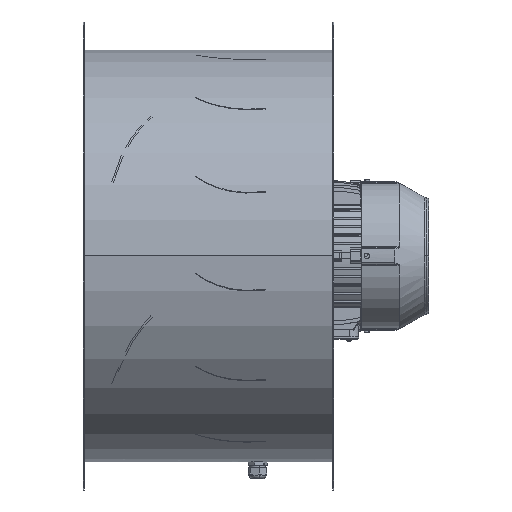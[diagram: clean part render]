
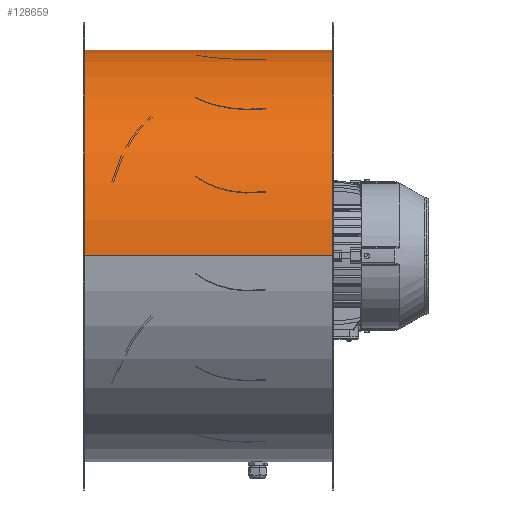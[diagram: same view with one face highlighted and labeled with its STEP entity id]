
A CAD part, top view. The second image highlights one B-rep face of the part: STEP entity #128659.
In plain terms, the highlighted cylindrical face has radius 356.5 mm (diameter 713 mm), a partial arc.
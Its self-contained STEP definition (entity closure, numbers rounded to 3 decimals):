
#6984 = EDGE_CURVE ( 'NONE', #455367, #63186, #37297, .T. ) ;
#10039 = CARTESIAN_POINT ( 'NONE',  ( 257.5, 3., -356.487 ) ) ;
#10895 = AXIS2_PLACEMENT_3D ( 'NONE', #292490, #51342, #333012 ) ;
#11672 = CARTESIAN_POINT ( 'NONE',  ( 257.5, 0., 0. ) ) ;
#18100 = DIRECTION ( 'NONE',  ( 1., 0., 0. ) ) ;
#29541 = AXIS2_PLACEMENT_3D ( 'NONE', #515457, #151040, #353441 ) ;
#31818 = CARTESIAN_POINT ( 'NONE',  ( 258.25, 0., 0. ) ) ;
#37297 = LINE ( 'NONE', #300777, #238855 ) ;
#51342 = DIRECTION ( 'NONE',  ( 1., 0., 0. ) ) ;
#52178 = DIRECTION ( 'NONE',  ( 0., 0., 1. ) ) ;
#60853 = ORIENTED_EDGE ( 'NONE', *, *, #6984, .F. ) ;
#62520 = AXIS2_PLACEMENT_3D ( 'NONE', #31818, #313501, #72303 ) ;
#63186 = VERTEX_POINT ( 'NONE', #174180 ) ;
#72303 = DIRECTION ( 'NONE',  ( 0., 0., 1. ) ) ;
#76504 = CARTESIAN_POINT ( 'NONE',  ( 257.5, 3.013, -356.487 ) ) ;
#88649 = EDGE_CURVE ( 'NONE', #63186, #91231, #420957, .T. ) ;
#88881 = EDGE_CURVE ( 'NONE', #238644, #114547, #206715, .T. ) ;
#91231 = VERTEX_POINT ( 'NONE', #391218 ) ;
#104111 = EDGE_CURVE ( 'NONE', #307993, #225124, #501907, .T. ) ;
#106348 = DIRECTION ( 'NONE',  ( 1., 0., 0. ) ) ;
#106703 = AXIS2_PLACEMENT_3D ( 'NONE', #192774, #474466, #233255 ) ;
#110921 = VECTOR ( 'NONE', #475781, 1000. ) ;
#111080 = CARTESIAN_POINT ( 'NONE',  ( 258.25, 0., -356.5 ) ) ;
#114420 = CARTESIAN_POINT ( 'NONE',  ( -169.5, 3.013, -356.487 ) ) ;
#114547 = VERTEX_POINT ( 'NONE', #370833 ) ;
#116383 = EDGE_CURVE ( 'NONE', #455367, #238644, #166411, .T. ) ;
#124747 = ORIENTED_EDGE ( 'NONE', *, *, #271777, .F. ) ;
#128659 = ADVANCED_FACE ( 'NONE', ( #190256 ), #284641, .T. ) ;
#142081 = ORIENTED_EDGE ( 'NONE', *, *, #88881, .T. ) ;
#151040 = DIRECTION ( 'NONE',  ( 1., 0., 0. ) ) ;
#153605 = ORIENTED_EDGE ( 'NONE', *, *, #435292, .F. ) ;
#156556 = CARTESIAN_POINT ( 'NONE',  ( 257.5, 0., -356.5 ) ) ;
#157363 = ORIENTED_EDGE ( 'NONE', *, *, #116383, .T. ) ;
#166411 = CIRCLE ( 'NONE', #106703, 356.5 ) ;
#169010 = AXIS2_PLACEMENT_3D ( 'NONE', #259269, #18100, #299783 ) ;
#174180 = CARTESIAN_POINT ( 'NONE',  ( -169.5, 0., -356.5 ) ) ;
#179568 = EDGE_CURVE ( 'NONE', #225124, #193785, #352256, .T. ) ;
#190256 = FACE_OUTER_BOUND ( 'NONE', #394505, .T. ) ;
#192774 = CARTESIAN_POINT ( 'NONE',  ( -170.25, 0., 0. ) ) ;
#193785 = VERTEX_POINT ( 'NONE', #76504 ) ;
#206715 = LINE ( 'NONE', #370363, #301211 ) ;
#208423 = DIRECTION ( 'NONE',  ( 1., 0., 0. ) ) ;
#225124 = VERTEX_POINT ( 'NONE', #10039 ) ;
#233255 = DIRECTION ( 'NONE',  ( 0., 0., 1. ) ) ;
#238644 = VERTEX_POINT ( 'NONE', #310228 ) ;
#238855 = VECTOR ( 'NONE', #381749, 1000. ) ;
#248853 = DIRECTION ( 'NONE',  ( 1., 0., 0. ) ) ;
#259269 = CARTESIAN_POINT ( 'NONE',  ( -169.5, 0., 0. ) ) ;
#261101 = CIRCLE ( 'NONE', #62520, 356.5 ) ;
#262093 = ORIENTED_EDGE ( 'NONE', *, *, #352349, .F. ) ;
#271777 = EDGE_CURVE ( 'NONE', #307993, #352341, #432269, .T. ) ;
#280744 = AXIS2_PLACEMENT_3D ( 'NONE', #449653, #208423, #490125 ) ;
#284641 = CYLINDRICAL_SURFACE ( 'NONE', #29541, 356.5 ) ;
#292490 = CARTESIAN_POINT ( 'NONE',  ( 257.5, 0., 0. ) ) ;
#293337 = DIRECTION ( 'NONE',  ( 1., 0., 0. ) ) ;
#299783 = DIRECTION ( 'NONE',  ( 0., 0., 1. ) ) ;
#300777 = CARTESIAN_POINT ( 'NONE',  ( -169.5, 0., -356.5 ) ) ;
#301211 = VECTOR ( 'NONE', #248853, 1000. ) ;
#306203 = VECTOR ( 'NONE', #106348, 1000. ) ;
#307993 = VERTEX_POINT ( 'NONE', #156556 ) ;
#310228 = CARTESIAN_POINT ( 'NONE',  ( -170.25, 0., 356.5 ) ) ;
#313501 = DIRECTION ( 'NONE',  ( 1., 0., 0. ) ) ;
#315256 = CIRCLE ( 'NONE', #169010, 356.5 ) ;
#318767 = AXIS2_PLACEMENT_3D ( 'NONE', #11672, #293337, #52178 ) ;
#318838 = LINE ( 'NONE', #467302, #306203 ) ;
#333012 = DIRECTION ( 'NONE',  ( 0., 0., 1. ) ) ;
#352256 = CIRCLE ( 'NONE', #10895, 356.5 ) ;
#352341 = VERTEX_POINT ( 'NONE', #111080 ) ;
#352349 = EDGE_CURVE ( 'NONE', #352341, #114547, #261101, .T. ) ;
#353441 = DIRECTION ( 'NONE',  ( 0., 0., 1. ) ) ;
#361236 = VERTEX_POINT ( 'NONE', #114420 ) ;
#370363 = CARTESIAN_POINT ( 'NONE',  ( -169.5, 0., 356.5 ) ) ;
#370833 = CARTESIAN_POINT ( 'NONE',  ( 258.25, 0., 356.5 ) ) ;
#371550 = ORIENTED_EDGE ( 'NONE', *, *, #88649, .F. ) ;
#381749 = DIRECTION ( 'NONE',  ( 1., 0., 0. ) ) ;
#391218 = CARTESIAN_POINT ( 'NONE',  ( -169.5, 3., -356.487 ) ) ;
#394505 = EDGE_LOOP ( 'NONE', ( #60853, #157363, #142081, #262093, #124747, #500142, #482049, #153605, #496926, #371550 ) ) ;
#401047 = EDGE_CURVE ( 'NONE', #91231, #361236, #315256, .T. ) ;
#420957 = CIRCLE ( 'NONE', #280744, 356.5 ) ;
#432269 = LINE ( 'NONE', #435322, #110921 ) ;
#435292 = EDGE_CURVE ( 'NONE', #361236, #193785, #318838, .T. ) ;
#435322 = CARTESIAN_POINT ( 'NONE',  ( -169.5, 0., -356.5 ) ) ;
#449653 = CARTESIAN_POINT ( 'NONE',  ( -169.5, 0., 0. ) ) ;
#451202 = CARTESIAN_POINT ( 'NONE',  ( -170.25, 0., -356.5 ) ) ;
#455367 = VERTEX_POINT ( 'NONE', #451202 ) ;
#467302 = CARTESIAN_POINT ( 'NONE',  ( -169.5, 3.013, -356.487 ) ) ;
#474466 = DIRECTION ( 'NONE',  ( 1., 0., 0. ) ) ;
#475781 = DIRECTION ( 'NONE',  ( 1., 0., 0. ) ) ;
#482049 = ORIENTED_EDGE ( 'NONE', *, *, #179568, .T. ) ;
#490125 = DIRECTION ( 'NONE',  ( 0., 0., 1. ) ) ;
#496926 = ORIENTED_EDGE ( 'NONE', *, *, #401047, .F. ) ;
#500142 = ORIENTED_EDGE ( 'NONE', *, *, #104111, .T. ) ;
#501907 = CIRCLE ( 'NONE', #318767, 356.5 ) ;
#515457 = CARTESIAN_POINT ( 'NONE',  ( -169.5, 0., 0. ) ) ;
